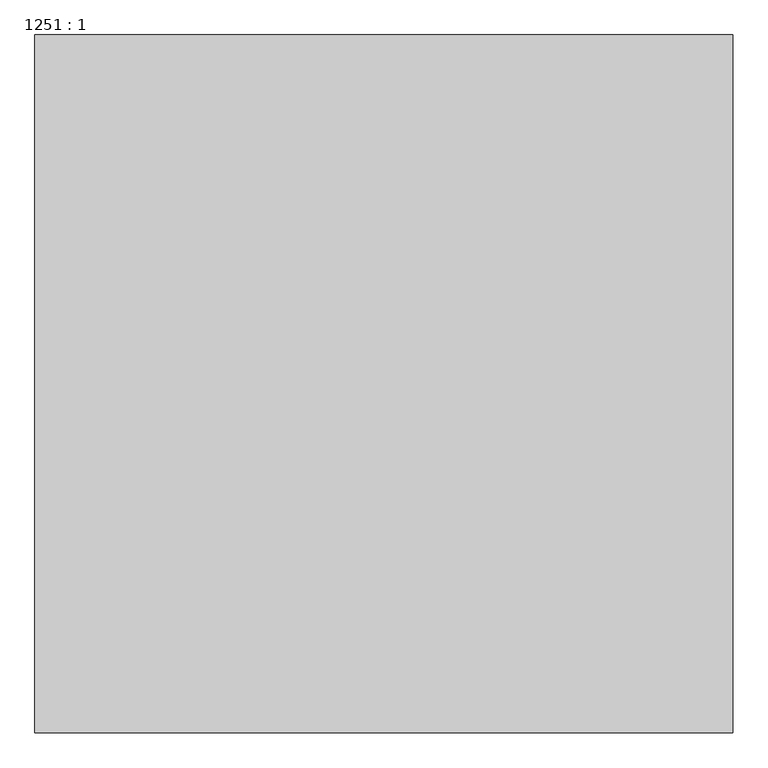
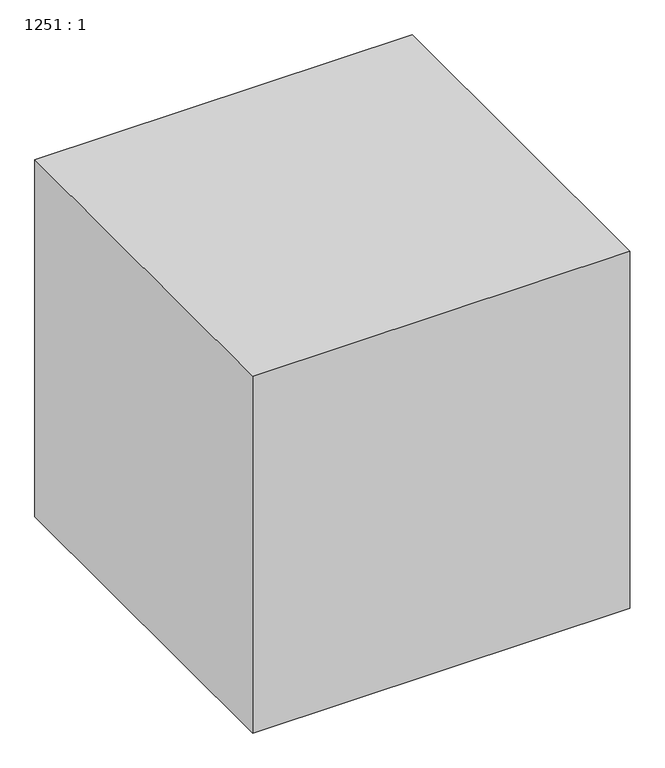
"""IFC4 building model written with IfcOpenShell, lengths in millimetres: proxy geometry, 1251 : 1."""

from ifc_helpers import new_model, si_unit, origin, origin_with_axes, place, context, project, spatial, polyline, outline, extrude, source, transform, mapped, element, save


def proxy_1251_1_fea39731(model_context):
    return source(origin(), model_context, "Body", "SweptSolid", [
        extrude(outline(polyline([(21692.0243292, -664.7705528), (21692.0243292, -1664.7705528), (20692.0243292, -1664.7705528), (20692.0243292, -664.7705528), (21692.0243292, -664.7705528)])), origin_with_axes(), (0.0, 0.0, 1.0), 1000.0),
    ])


if __name__ == "__main__":
    model = new_model("IFC4")
    model_context = context("Model", 3, world=origin())
    ifc_project = project(units=[si_unit("LENGTHUNIT", "METRE", prefix="MILLI")], contexts=[model_context])
    site = spatial("IfcSite", under=ifc_project)
    building = spatial("IfcBuilding", under=site)
    placement = place(None, origin())
    proxy_1251_1_shape = proxy_1251_1_fea39731(model_context)
    element("IfcBuildingElementProxy", 1, Name="1251 : 1", ObjectType="1251 : 1", at=placement, inside=building, context=model_context, shape_type="MappedRepresentation", body=[
        mapped(proxy_1251_1_shape, transform((0.0, 0.0, 0.0), x_axis=(1.0, 0.0, 0.0), y_axis=(0.0, 1.0, 0.0), z_axis=(0.0, 0.0, 1.0))),
    ])
    save(model, "model.ifc")
